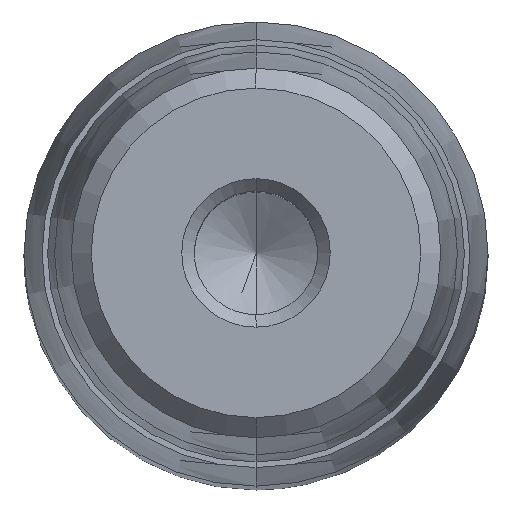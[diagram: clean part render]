
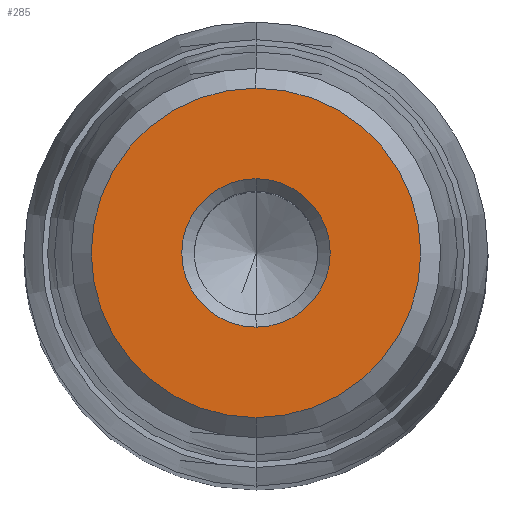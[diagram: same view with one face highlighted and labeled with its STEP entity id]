
A CAD part, top view. The second image highlights one B-rep face of the part: STEP entity #285.
In plain terms, the highlighted planar face has unit normal (0, 0, 1).
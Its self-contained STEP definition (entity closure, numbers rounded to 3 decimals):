
#164=CARTESIAN_POINT('Axis2P3D Location',(0.,0.,35.)) ;
#168=CARTESIAN_POINT('Vertex',(4.,0.,35.)) ;
#170=CARTESIAN_POINT('Vertex',(0.,-4.,35.)) ;
#173=CARTESIAN_POINT('Axis2P3D Location',(0.,0.,35.)) ;
#177=CARTESIAN_POINT('Vertex',(0.,4.,35.)) ;
#228=CARTESIAN_POINT('Axis2P3D Location',(0.,4.,35.)) ;
#233=CARTESIAN_POINT('Axis2P3D Location',(0.,0.,35.)) ;
#237=CARTESIAN_POINT('Vertex',(0.,8.875,35.)) ;
#239=CARTESIAN_POINT('Vertex',(8.875,0.,35.)) ;
#242=CARTESIAN_POINT('Axis2P3D Location',(0.,0.,35.)) ;
#246=CARTESIAN_POINT('Vertex',(-8.875,0.,35.)) ;
#249=CARTESIAN_POINT('Axis2P3D Location',(0.,0.,35.)) ;
#253=CARTESIAN_POINT('Vertex',(0.,-8.875,35.)) ;
#256=CARTESIAN_POINT('Axis2P3D Location',(0.,0.,35.)) ;
#267=CARTESIAN_POINT('Axis2P3D Location',(0.,0.,35.)) ;
#271=CARTESIAN_POINT('Vertex',(-4.,0.,35.)) ;
#274=CARTESIAN_POINT('Axis2P3D Location',(0.,0.,35.)) ;
#165=DIRECTION('Axis2P3D Direction',(0.,0.,1.)) ;
#174=DIRECTION('Axis2P3D Direction',(0.,0.,1.)) ;
#229=DIRECTION('Axis2P3D Direction',(-0.,0.,-1.)) ;
#230=DIRECTION('Axis2P3D XDirection',(0.,1.,0.)) ;
#234=DIRECTION('Axis2P3D Direction',(-0.,0.,-1.)) ;
#243=DIRECTION('Axis2P3D Direction',(-0.,0.,-1.)) ;
#250=DIRECTION('Axis2P3D Direction',(-0.,0.,-1.)) ;
#257=DIRECTION('Axis2P3D Direction',(-0.,0.,-1.)) ;
#268=DIRECTION('Axis2P3D Direction',(-0.,0.,-1.)) ;
#275=DIRECTION('Axis2P3D Direction',(-0.,0.,-1.)) ;
#166=AXIS2_PLACEMENT_3D('Circle Axis2P3D',#164,#165,$) ;
#175=AXIS2_PLACEMENT_3D('Circle Axis2P3D',#173,#174,$) ;
#231=AXIS2_PLACEMENT_3D('Plane Axis2P3D',#228,#229,#230) ;
#235=AXIS2_PLACEMENT_3D('Circle Axis2P3D',#233,#234,$) ;
#244=AXIS2_PLACEMENT_3D('Circle Axis2P3D',#242,#243,$) ;
#251=AXIS2_PLACEMENT_3D('Circle Axis2P3D',#249,#250,$) ;
#258=AXIS2_PLACEMENT_3D('Circle Axis2P3D',#256,#257,$) ;
#269=AXIS2_PLACEMENT_3D('Circle Axis2P3D',#267,#268,$) ;
#276=AXIS2_PLACEMENT_3D('Circle Axis2P3D',#274,#275,$) ;
#262=ORIENTED_EDGE('',*,*,#241,.F.) ;
#263=ORIENTED_EDGE('',*,*,#248,.F.) ;
#264=ORIENTED_EDGE('',*,*,#255,.F.) ;
#265=ORIENTED_EDGE('',*,*,#260,.F.) ;
#280=ORIENTED_EDGE('',*,*,#172,.T.) ;
#281=ORIENTED_EDGE('',*,*,#273,.T.) ;
#282=ORIENTED_EDGE('',*,*,#278,.T.) ;
#283=ORIENTED_EDGE('',*,*,#179,.T.) ;
#284=FACE_BOUND('',#279,.T.) ;
#285=ADVANCED_FACE('722-25x140x163',(#266,#284),#232,.F.) ;
#167=CIRCLE('generated circle',#166,4.) ;
#176=CIRCLE('generated circle',#175,4.) ;
#236=CIRCLE('generated circle',#235,8.875) ;
#245=CIRCLE('generated circle',#244,8.875) ;
#252=CIRCLE('generated circle',#251,8.875) ;
#259=CIRCLE('generated circle',#258,8.875) ;
#270=CIRCLE('generated circle',#269,4.) ;
#277=CIRCLE('generated circle',#276,4.) ;
#172=EDGE_CURVE('',#169,#171,#167,.F.) ;
#179=EDGE_CURVE('',#178,#169,#176,.F.) ;
#241=EDGE_CURVE('',#238,#240,#236,.T.) ;
#248=EDGE_CURVE('',#247,#238,#245,.T.) ;
#255=EDGE_CURVE('',#254,#247,#252,.T.) ;
#260=EDGE_CURVE('',#240,#254,#259,.T.) ;
#273=EDGE_CURVE('',#171,#272,#270,.T.) ;
#278=EDGE_CURVE('',#272,#178,#277,.T.) ;
#261=EDGE_LOOP('',(#262,#263,#264,#265)) ;
#279=EDGE_LOOP('',(#280,#281,#282,#283)) ;
#266=FACE_OUTER_BOUND('',#261,.T.) ;
#232=PLANE('Plane',#231) ;
#169=VERTEX_POINT('',#168) ;
#171=VERTEX_POINT('',#170) ;
#178=VERTEX_POINT('',#177) ;
#238=VERTEX_POINT('',#237) ;
#240=VERTEX_POINT('',#239) ;
#247=VERTEX_POINT('',#246) ;
#254=VERTEX_POINT('',#253) ;
#272=VERTEX_POINT('',#271) ;
